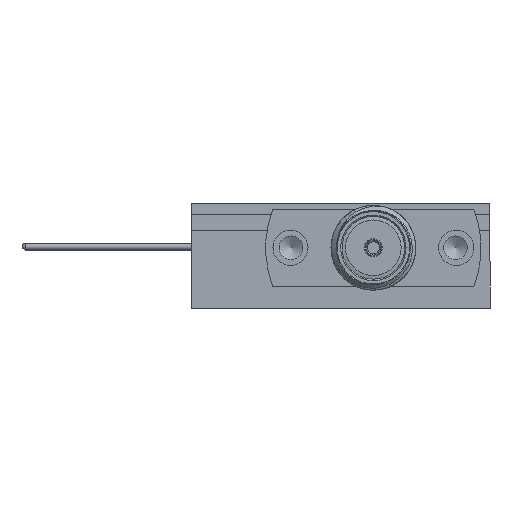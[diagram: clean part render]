
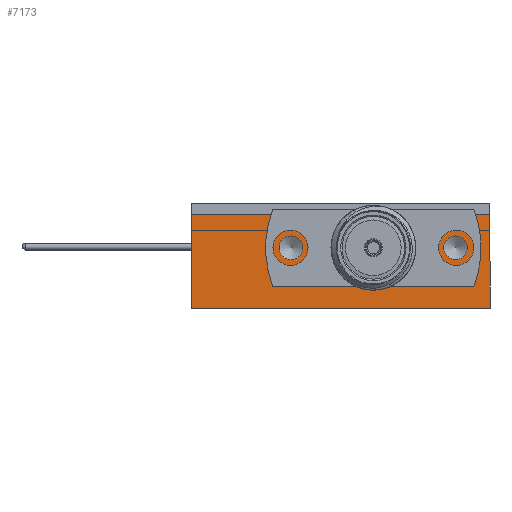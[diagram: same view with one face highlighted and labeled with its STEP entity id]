
A CAD part, left-side view. The second image highlights one B-rep face of the part: STEP entity #7173.
In plain terms, the highlighted planar face has unit normal (-1, 0, 0).
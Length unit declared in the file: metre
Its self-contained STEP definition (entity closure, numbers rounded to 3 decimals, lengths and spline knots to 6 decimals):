
#970=LINE('',#15615,#1579);
#1009=LINE('',#15724,#1618);
#1015=LINE('',#15746,#1624);
#1017=LINE('',#15762,#1626);
#1579=VECTOR('',#9097,1.);
#1618=VECTOR('',#9202,1.);
#1624=VECTOR('',#9222,1.);
#1626=VECTOR('',#9240,1.);
#1861=PLANE('',#7789);
#3533=ORIENTED_EDGE('',*,*,#4712,.F.);
#3534=ORIENTED_EDGE('',*,*,#4713,.F.);
#3535=ORIENTED_EDGE('',*,*,#4714,.F.);
#3536=ORIENTED_EDGE('',*,*,#4715,.F.);
#3537=ORIENTED_EDGE('',*,*,#4695,.F.);
#3538=ORIENTED_EDGE('',*,*,#4707,.T.);
#3539=ORIENTED_EDGE('',*,*,#4636,.T.);
#4636=EDGE_CURVE('',#5388,#5387,#970,.T.);
#4695=EDGE_CURVE('',#5424,#5425,#1009,.T.);
#4707=EDGE_CURVE('',#5424,#5388,#1015,.T.);
#4712=EDGE_CURVE('',#5437,#5437,#5646,.T.);
#4713=EDGE_CURVE('',#5438,#5438,#5647,.T.);
#4714=EDGE_CURVE('',#5439,#5439,#5648,.T.);
#4715=EDGE_CURVE('',#5425,#5387,#1017,.T.);
#5387=VERTEX_POINT('',#15614);
#5388=VERTEX_POINT('',#15616);
#5424=VERTEX_POINT('',#15723);
#5425=VERTEX_POINT('',#15725);
#5437=VERTEX_POINT('',#15757);
#5438=VERTEX_POINT('',#15759);
#5439=VERTEX_POINT('',#15761);
#5646=CIRCLE('',#7790,0.000875);
#5647=CIRCLE('',#7791,0.000875);
#5648=CIRCLE('',#7792,0.0011);
#6112=EDGE_LOOP('',(#3533));
#6113=EDGE_LOOP('',(#3534));
#6114=EDGE_LOOP('',(#3535));
#6115=EDGE_LOOP('',(#3536,#3537,#3538,#3539));
#6672=FACE_BOUND('',#6112,.T.);
#6673=FACE_BOUND('',#6113,.T.);
#6674=FACE_BOUND('',#6114,.T.);
#6675=FACE_BOUND('',#6115,.T.);
#7173=ADVANCED_FACE('',(#6672,#6673,#6674,#6675),#1861,.T.);
#7789=AXIS2_PLACEMENT_3D('',#15755,#9232,#9233);
#7790=AXIS2_PLACEMENT_3D('',#15756,#9234,#9235);
#7791=AXIS2_PLACEMENT_3D('',#15758,#9236,#9237);
#7792=AXIS2_PLACEMENT_3D('',#15760,#9238,#9239);
#9097=DIRECTION('',(0.,0.,-1.));
#9202=DIRECTION('',(0.,0.,-1.));
#9222=DIRECTION('',(0.,1.,0.));
#9232=DIRECTION('',(-1.,0.,0.));
#9233=DIRECTION('',(0.,-1.,0.));
#9234=DIRECTION('',(-1.,0.,0.));
#9235=DIRECTION('',(0.,-1.,0.));
#9236=DIRECTION('',(-1.,0.,0.));
#9237=DIRECTION('',(0.,0.,1.));
#9238=DIRECTION('',(-1.,0.,0.));
#9239=DIRECTION('',(0.,-1.,0.));
#9240=DIRECTION('',(0.,1.,0.));
#15614=CARTESIAN_POINT('',(-0.01075,0.011,0.));
#15615=CARTESIAN_POINT('',(-0.01075,0.011,0.0069));
#15616=CARTESIAN_POINT('',(-0.01075,0.011,0.0069));
#15723=CARTESIAN_POINT('',(-0.01075,-0.011,0.0069));
#15724=CARTESIAN_POINT('',(-0.01075,-0.011,0.0069));
#15725=CARTESIAN_POINT('',(-0.01075,-0.011,0.));
#15746=CARTESIAN_POINT('',(-0.01075,0.,0.0069));
#15755=CARTESIAN_POINT('',(-0.01075,0.,0.0069));
#15756=CARTESIAN_POINT('',(-0.01075,0.00367,0.00445));
#15757=CARTESIAN_POINT('',(-0.01075,0.002795,0.00445));
#15758=CARTESIAN_POINT('',(-0.01075,-0.00847,0.00445));
#15759=CARTESIAN_POINT('',(-0.01075,-0.00847,0.005325));
#15760=CARTESIAN_POINT('',(-0.01075,-0.0024,0.00445));
#15761=CARTESIAN_POINT('',(-0.01075,-0.0035,0.00445));
#15762=CARTESIAN_POINT('',(-0.01075,0.,0.));
